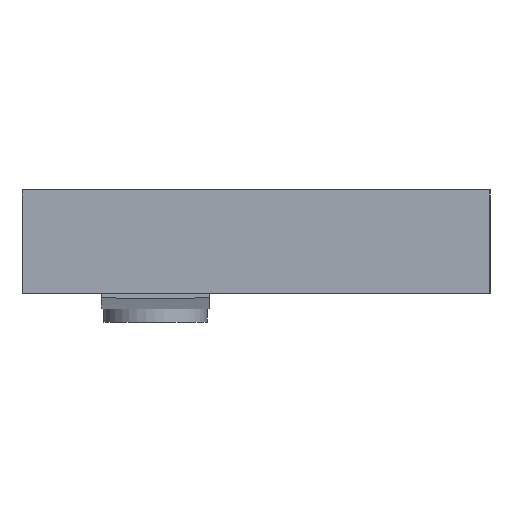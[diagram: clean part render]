
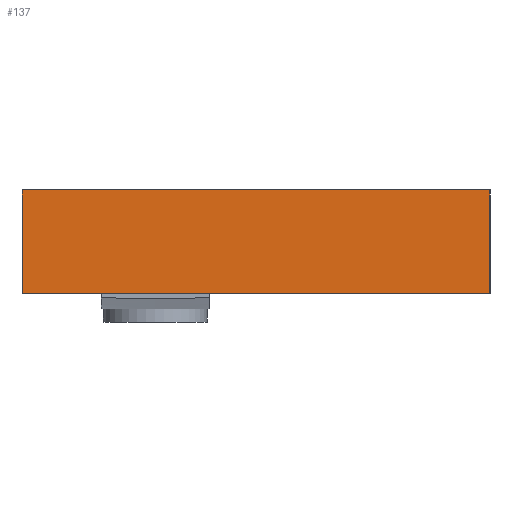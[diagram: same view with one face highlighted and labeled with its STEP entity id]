
A CAD part, left-side view. The second image highlights one B-rep face of the part: STEP entity #137.
In plain terms, the highlighted planar face has unit normal (-1, 0, 0).
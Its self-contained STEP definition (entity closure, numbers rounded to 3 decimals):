
#137=ADVANCED_FACE('',(#289),#220,.T.);
#220=PLANE('',#1683);
#289=FACE_OUTER_BOUND('',#369,.T.);
#369=EDGE_LOOP('',(#600,#601,#602,#603));
#600=ORIENTED_EDGE('',*,*,#1097,.F.);
#601=ORIENTED_EDGE('',*,*,#1134,.F.);
#602=ORIENTED_EDGE('',*,*,#1130,.T.);
#603=ORIENTED_EDGE('',*,*,#1129,.T.);
#943=VERTEX_POINT('',#2287);
#944=VERTEX_POINT('',#2289);
#964=VERTEX_POINT('',#2379);
#965=VERTEX_POINT('',#2384);
#1097=EDGE_CURVE('',#943,#944,#1318,.T.);
#1129=EDGE_CURVE('',#964,#944,#1341,.T.);
#1130=EDGE_CURVE('',#965,#964,#1342,.T.);
#1134=EDGE_CURVE('',#965,#943,#1346,.T.);
#1318=LINE('',#2288,#1510);
#1341=LINE('',#2381,#1533);
#1342=LINE('',#2383,#1534);
#1346=LINE('',#2390,#1538);
#1510=VECTOR('',#1834,1.);
#1533=VECTOR('',#1883,1.);
#1534=VECTOR('',#1886,1.);
#1538=VECTOR('',#1892,1.);
#1683=AXIS2_PLACEMENT_3D('',#2460,#1933,#1934);
#1834=DIRECTION('',(0.,0.,-1.));
#1883=DIRECTION('',(0.,-1.,0.));
#1886=DIRECTION('',(0.,0.,-1.));
#1892=DIRECTION('',(0.,-1.,0.));
#1933=DIRECTION('',(-1.,0.,0.));
#1934=DIRECTION('',(0.,0.,1.));
#2287=CARTESIAN_POINT('',(-350.,-322.,0.));
#2288=CARTESIAN_POINT('',(-350.,-322.,0.));
#2289=CARTESIAN_POINT('',(-350.,-322.,-100.));
#2379=CARTESIAN_POINT('',(-350.,128.,-100.));
#2381=CARTESIAN_POINT('',(-350.,128.,-100.));
#2383=CARTESIAN_POINT('',(-350.,128.,0.));
#2384=CARTESIAN_POINT('',(-350.,128.,0.));
#2390=CARTESIAN_POINT('',(-350.,128.,0.));
#2460=CARTESIAN_POINT('',(-350.,128.,0.));
